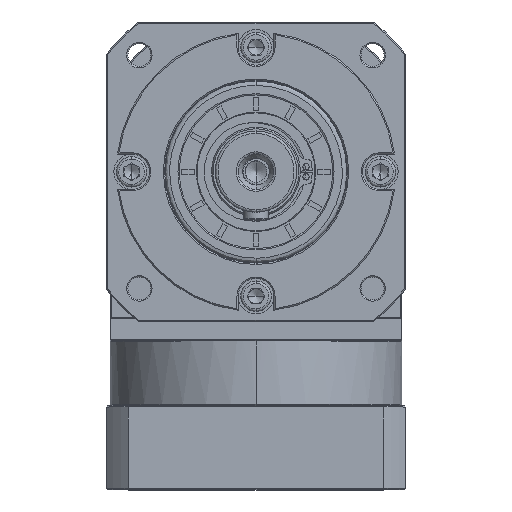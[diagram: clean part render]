
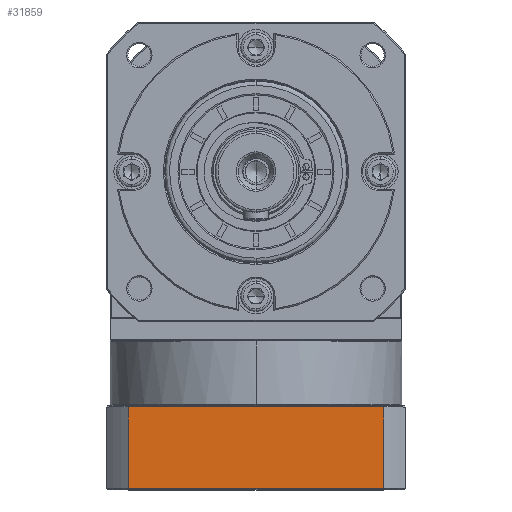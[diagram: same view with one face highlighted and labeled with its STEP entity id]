
A CAD part, top view. The second image highlights one B-rep face of the part: STEP entity #31859.
In plain terms, the highlighted planar face has unit normal (0, 0, 1).
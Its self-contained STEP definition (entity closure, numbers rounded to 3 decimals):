
#2290 = VECTOR ( 'NONE', #151656, 1000. ) ;
#6895 = EDGE_CURVE ( 'NONE', #88537, #40083, #135682, .T. ) ;
#8544 = EDGE_CURVE ( 'NONE', #40212, #88537, #63749, .T. ) ;
#10028 = DIRECTION ( 'NONE',  ( 0., 0., -1. ) ) ;
#10720 = ORIENTED_EDGE ( 'NONE', *, *, #168216, .F. ) ;
#17791 = ORIENTED_EDGE ( 'NONE', *, *, #39953, .F. ) ;
#22316 = ORIENTED_EDGE ( 'NONE', *, *, #6895, .F. ) ;
#23048 = LINE ( 'NONE', #47921, #80470 ) ;
#23249 = DIRECTION ( 'NONE',  ( -1., 0., 0. ) ) ;
#31859 = ADVANCED_FACE ( 'NONE', ( #63080 ), #48962, .F. ) ;
#39953 = EDGE_CURVE ( 'NONE', #126446, #40212, #23048, .T. ) ;
#40083 = VERTEX_POINT ( 'NONE', #89762 ) ;
#40212 = VERTEX_POINT ( 'NONE', #55276 ) ;
#43941 = CARTESIAN_POINT ( 'NONE',  ( -148.183, 95.825, 82.325 ) ) ;
#47921 = CARTESIAN_POINT ( 'NONE',  ( -257.435, -158.07, 82.325 ) ) ;
#48962 = PLANE ( 'NONE',  #122286 ) ;
#55276 = CARTESIAN_POINT ( 'NONE',  ( -248.687, -158.07, 82.325 ) ) ;
#63080 = FACE_OUTER_BOUND ( 'NONE', #105595, .T. ) ;
#63749 = LINE ( 'NONE', #109072, #2290 ) ;
#64021 = DIRECTION ( 'NONE',  ( 0., -1., 0. ) ) ;
#65053 = CARTESIAN_POINT ( 'NONE',  ( -148.183, -158.07, 82.325 ) ) ;
#75367 = CARTESIAN_POINT ( 'NONE',  ( -257.435, -158.57, 82.325 ) ) ;
#79542 = DIRECTION ( 'NONE',  ( 1., 0., 0. ) ) ;
#80470 = VECTOR ( 'NONE', #142625, 1000. ) ;
#88537 = VERTEX_POINT ( 'NONE', #159811 ) ;
#89762 = CARTESIAN_POINT ( 'NONE',  ( -148.183, -126.07, 82.325 ) ) ;
#105595 = EDGE_LOOP ( 'NONE', ( #10720, #22316, #145218, #17791 ) ) ;
#109072 = CARTESIAN_POINT ( 'NONE',  ( -248.687, -158.57, 82.325 ) ) ;
#122286 = AXIS2_PLACEMENT_3D ( 'NONE', #75367, #10028, #23249 ) ;
#126446 = VERTEX_POINT ( 'NONE', #65053 ) ;
#127463 = VECTOR ( 'NONE', #79542, 1000. ) ;
#135682 = LINE ( 'NONE', #145561, #127463 ) ;
#142625 = DIRECTION ( 'NONE',  ( -1., 0., 0. ) ) ;
#145218 = ORIENTED_EDGE ( 'NONE', *, *, #8544, .F. ) ;
#145561 = CARTESIAN_POINT ( 'NONE',  ( -257.435, -126.07, 82.325 ) ) ;
#146379 = VECTOR ( 'NONE', #64021, 1000. ) ;
#148494 = LINE ( 'NONE', #43941, #146379 ) ;
#151656 = DIRECTION ( 'NONE',  ( 0., 1., 0. ) ) ;
#159811 = CARTESIAN_POINT ( 'NONE',  ( -248.687, -126.07, 82.325 ) ) ;
#168216 = EDGE_CURVE ( 'NONE', #40083, #126446, #148494, .T. ) ;
